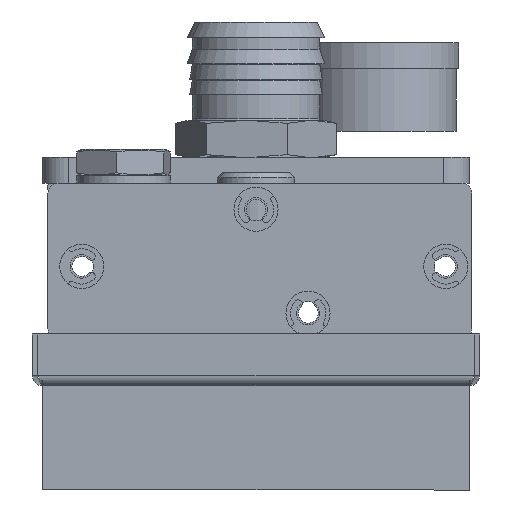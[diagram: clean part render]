
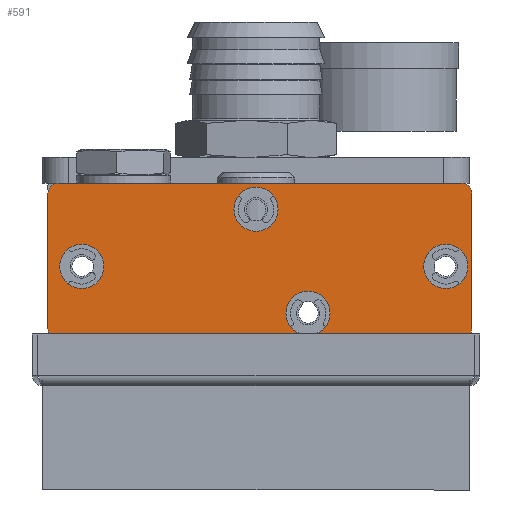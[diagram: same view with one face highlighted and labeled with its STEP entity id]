
A CAD part, front view. The second image highlights one B-rep face of the part: STEP entity #591.
In plain terms, the highlighted planar face has unit normal (0, -1, 0).
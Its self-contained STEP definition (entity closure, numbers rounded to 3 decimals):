
#378 = VERTEX_POINT ( 'NONE', #6392 ) ;
#380 = EDGE_CURVE ( 'NONE', #378, #381, #6391, .T. ) ;
#381 = VERTEX_POINT ( 'NONE', #6386 ) ;
#439 = EDGE_CURVE ( 'NONE', #440, #490, #6301, .T. ) ;
#440 = VERTEX_POINT ( 'NONE', #6296 ) ;
#452 = VERTEX_POINT ( 'NONE', #6625 ) ;
#454 = EDGE_CURVE ( 'NONE', #452, #455, #6622, .T. ) ;
#455 = VERTEX_POINT ( 'NONE', #6617 ) ;
#484 = EDGE_CURVE ( 'NONE', #485, #503, #6586, .T. ) ;
#485 = VERTEX_POINT ( 'NONE', #6582 ) ;
#489 = EDGE_CURVE ( 'NONE', #490, #703, #6532, .T. ) ;
#490 = VERTEX_POINT ( 'NONE', #6524 ) ;
#503 = VERTEX_POINT ( 'NONE', #6478 ) ;
#522 = EDGE_CURVE ( 'NONE', #526, #523, #6735, .T. ) ;
#523 = VERTEX_POINT ( 'NONE', #6730 ) ;
#526 = VERTEX_POINT ( 'NONE', #6725 ) ;
#528 = EDGE_CURVE ( 'NONE', #555, #529, #6724, .T. ) ;
#529 = VERTEX_POINT ( 'NONE', #6719 ) ;
#535 = EDGE_CURVE ( 'NONE', #536, #537, #6931, .T. ) ;
#536 = VERTEX_POINT ( 'NONE', #6926 ) ;
#537 = VERTEX_POINT ( 'NONE', #6925 ) ;
#555 = VERTEX_POINT ( 'NONE', #6867 ) ;
#577 = ORIENTED_EDGE ( 'NONE', *, *, #454, .F. ) ;
#578 = EDGE_LOOP ( 'NONE', ( #579, #580 ) ) ;
#579 = ORIENTED_EDGE ( 'NONE', *, *, #854, .F. ) ;
#580 = ORIENTED_EDGE ( 'NONE', *, *, #528, .F. ) ;
#581 = EDGE_LOOP ( 'NONE', ( #582, #583, #585, #586, #587, #821, #822, #649 ) ) ;
#582 = ORIENTED_EDGE ( 'NONE', *, *, #439, .F. ) ;
#583 = ORIENTED_EDGE ( 'NONE', *, *, #584, .F. ) ;
#584 = EDGE_CURVE ( 'NONE', #537, #440, #6762, .T. ) ;
#585 = ORIENTED_EDGE ( 'NONE', *, *, #535, .F. ) ;
#586 = ORIENTED_EDGE ( 'NONE', *, *, #694, .F. ) ;
#587 = ORIENTED_EDGE ( 'NONE', *, *, #484, .F. ) ;
#590 = EDGE_CURVE ( 'NONE', #523, #526, #6757, .T. ) ;
#591 = ADVANCED_FACE ( 'NONE', ( #6752, #6751, #6750, #6749, #6748 ), #6790, .T. ) ;
#592 = EDGE_LOOP ( 'NONE', ( #593, #594 ) ) ;
#593 = ORIENTED_EDGE ( 'NONE', *, *, #590, .F. ) ;
#594 = ORIENTED_EDGE ( 'NONE', *, *, #522, .F. ) ;
#595 = EDGE_LOOP ( 'NONE', ( #596, #597 ) ) ;
#596 = ORIENTED_EDGE ( 'NONE', *, *, #613, .F. ) ;
#597 = ORIENTED_EDGE ( 'NONE', *, *, #380, .F. ) ;
#598 = EDGE_LOOP ( 'NONE', ( #599, #577 ) ) ;
#599 = ORIENTED_EDGE ( 'NONE', *, *, #784, .F. ) ;
#613 = EDGE_CURVE ( 'NONE', #381, #378, #7064, .T. ) ;
#649 = ORIENTED_EDGE ( 'NONE', *, *, #489, .F. ) ;
#694 = EDGE_CURVE ( 'NONE', #503, #536, #7166, .T. ) ;
#702 = EDGE_CURVE ( 'NONE', #703, #833, #7328, .T. ) ;
#703 = VERTEX_POINT ( 'NONE', #7520 ) ;
#784 = EDGE_CURVE ( 'NONE', #455, #452, #7443, .T. ) ;
#821 = ORIENTED_EDGE ( 'NONE', *, *, #832, .F. ) ;
#822 = ORIENTED_EDGE ( 'NONE', *, *, #702, .F. ) ;
#832 = EDGE_CURVE ( 'NONE', #833, #485, #7608, .T. ) ;
#833 = VERTEX_POINT ( 'NONE', #7604 ) ;
#854 = EDGE_CURVE ( 'NONE', #529, #555, #7538, .T. ) ;
#6296 = CARTESIAN_POINT ( 'NONE',  ( -73.993, -290.496, -2.86 ) ) ;
#6297 = DIRECTION ( 'NONE',  ( -1., 0., 0. ) ) ;
#6298 = DIRECTION ( 'NONE',  ( 0., 1., 0. ) ) ;
#6299 = CARTESIAN_POINT ( 'NONE',  ( -73.993, -290.496, -0.86 ) ) ;
#6300 = AXIS2_PLACEMENT_3D ( 'NONE', #6299, #6298, #6297 ) ;
#6301 = CIRCLE ( 'NONE', #6300, 2. ) ;
#6386 = CARTESIAN_POINT ( 'NONE',  ( -30.243, -290.496, 2.14 ) ) ;
#6387 = DIRECTION ( 'NONE',  ( -1., 0., 0. ) ) ;
#6388 = DIRECTION ( 'NONE',  ( 0., -1., 0. ) ) ;
#6389 = CARTESIAN_POINT ( 'NONE',  ( -25.993, -290.496, 2.14 ) ) ;
#6390 = AXIS2_PLACEMENT_3D ( 'NONE', #6389, #6388, #6387 ) ;
#6391 = CIRCLE ( 'NONE', #6390, 4.25 ) ;
#6392 = CARTESIAN_POINT ( 'NONE',  ( -21.743, -290.496, 2.14 ) ) ;
#6478 = CARTESIAN_POINT ( 'NONE',  ( 5.507, -290.496, 25.14 ) ) ;
#6524 = CARTESIAN_POINT ( 'NONE',  ( -75.993, -290.496, -0.86 ) ) ;
#6525 = DIRECTION ( 'NONE',  ( 0., 0., 1. ) ) ;
#6526 = VECTOR ( 'NONE', #6525, 1000. ) ;
#6527 = CARTESIAN_POINT ( 'NONE',  ( -75.993, -290.496, -0.86 ) ) ;
#6532 = LINE ( 'NONE', #6527, #6526 ) ;
#6582 = CARTESIAN_POINT ( 'NONE',  ( 3.507, -290.496, 27.14 ) ) ;
#6583 = DIRECTION ( 'NONE',  ( 1., 0., 0. ) ) ;
#6584 = DIRECTION ( 'NONE',  ( 0., 1., 0. ) ) ;
#6585 = AXIS2_PLACEMENT_3D ( 'NONE', #6636, #6584, #6583 ) ;
#6586 = CIRCLE ( 'NONE', #6585, 2. ) ;
#6617 = CARTESIAN_POINT ( 'NONE',  ( -40.243, -290.496, 22.14 ) ) ;
#6618 = DIRECTION ( 'NONE',  ( -1., 0., 0. ) ) ;
#6619 = DIRECTION ( 'NONE',  ( 0., -1., 0. ) ) ;
#6620 = CARTESIAN_POINT ( 'NONE',  ( -35.993, -290.496, 22.14 ) ) ;
#6621 = AXIS2_PLACEMENT_3D ( 'NONE', #6620, #6619, #6618 ) ;
#6622 = CIRCLE ( 'NONE', #6621, 4.25 ) ;
#6625 = CARTESIAN_POINT ( 'NONE',  ( -31.743, -290.496, 22.14 ) ) ;
#6636 = CARTESIAN_POINT ( 'NONE',  ( 3.507, -290.496, 25.14 ) ) ;
#6719 = CARTESIAN_POINT ( 'NONE',  ( -3.743, -290.496, 11.14 ) ) ;
#6720 = DIRECTION ( 'NONE',  ( -1., 0., 0. ) ) ;
#6721 = DIRECTION ( 'NONE',  ( 0., -1., 0. ) ) ;
#6722 = CARTESIAN_POINT ( 'NONE',  ( 0.507, -290.496, 11.14 ) ) ;
#6723 = AXIS2_PLACEMENT_3D ( 'NONE', #6722, #6721, #6720 ) ;
#6724 = CIRCLE ( 'NONE', #6723, 4.25 ) ;
#6725 = CARTESIAN_POINT ( 'NONE',  ( -65.243, -290.496, 11.14 ) ) ;
#6730 = CARTESIAN_POINT ( 'NONE',  ( -73.743, -290.496, 11.14 ) ) ;
#6731 = DIRECTION ( 'NONE',  ( -1., 0., 0. ) ) ;
#6732 = DIRECTION ( 'NONE',  ( 0., -1., 0. ) ) ;
#6733 = CARTESIAN_POINT ( 'NONE',  ( -69.493, -290.496, 11.14 ) ) ;
#6734 = AXIS2_PLACEMENT_3D ( 'NONE', #6733, #6732, #6731 ) ;
#6735 = CIRCLE ( 'NONE', #6734, 4.25 ) ;
#6748 = FACE_OUTER_BOUND ( 'NONE', #581, .T. ) ;
#6749 = FACE_BOUND ( 'NONE', #578, .T. ) ;
#6750 = FACE_BOUND ( 'NONE', #598, .T. ) ;
#6751 = FACE_BOUND ( 'NONE', #595, .T. ) ;
#6752 = FACE_BOUND ( 'NONE', #592, .T. ) ;
#6753 = DIRECTION ( 'NONE',  ( -1., 0., 0. ) ) ;
#6754 = DIRECTION ( 'NONE',  ( 0., -1., 0. ) ) ;
#6755 = CARTESIAN_POINT ( 'NONE',  ( -69.493, -290.496, 11.14 ) ) ;
#6756 = AXIS2_PLACEMENT_3D ( 'NONE', #6755, #6754, #6753 ) ;
#6757 = CIRCLE ( 'NONE', #6756, 4.25 ) ;
#6759 = DIRECTION ( 'NONE',  ( -1., 0., 0. ) ) ;
#6760 = VECTOR ( 'NONE', #6759, 1000. ) ;
#6761 = CARTESIAN_POINT ( 'NONE',  ( -73.993, -290.496, -2.86 ) ) ;
#6762 = LINE ( 'NONE', #6761, #6760 ) ;
#6784 = DIRECTION ( 'NONE',  ( -1., 0., 0. ) ) ;
#6785 = DIRECTION ( 'NONE',  ( 0., -1., 0. ) ) ;
#6786 = CARTESIAN_POINT ( 'NONE',  ( -73.993, -290.496, -0.86 ) ) ;
#6787 = AXIS2_PLACEMENT_3D ( 'NONE', #6786, #6785, #6784 ) ;
#6790 = PLANE ( 'NONE',  #6787 ) ;
#6867 = CARTESIAN_POINT ( 'NONE',  ( 4.757, -290.496, 11.14 ) ) ;
#6925 = CARTESIAN_POINT ( 'NONE',  ( 3.507, -290.496, -2.86 ) ) ;
#6926 = CARTESIAN_POINT ( 'NONE',  ( 5.507, -290.496, -0.86 ) ) ;
#6927 = DIRECTION ( 'NONE',  ( 1., 0., 0. ) ) ;
#6928 = DIRECTION ( 'NONE',  ( 0., 1., 0. ) ) ;
#6929 = CARTESIAN_POINT ( 'NONE',  ( 3.507, -290.496, -0.86 ) ) ;
#6930 = AXIS2_PLACEMENT_3D ( 'NONE', #6929, #6928, #6927 ) ;
#6931 = CIRCLE ( 'NONE', #6930, 2. ) ;
#7060 = DIRECTION ( 'NONE',  ( -1., 0., 0. ) ) ;
#7061 = DIRECTION ( 'NONE',  ( 0., -1., 0. ) ) ;
#7062 = CARTESIAN_POINT ( 'NONE',  ( -25.993, -290.496, 2.14 ) ) ;
#7063 = AXIS2_PLACEMENT_3D ( 'NONE', #7062, #7061, #7060 ) ;
#7064 = CIRCLE ( 'NONE', #7063, 4.25 ) ;
#7163 = DIRECTION ( 'NONE',  ( 0., 0., -1. ) ) ;
#7164 = VECTOR ( 'NONE', #7163, 1000. ) ;
#7165 = CARTESIAN_POINT ( 'NONE',  ( 5.507, -290.496, -0.86 ) ) ;
#7166 = LINE ( 'NONE', #7165, #7164 ) ;
#7322 = CARTESIAN_POINT ( 'NONE',  ( -73.993, -290.496, 25.14 ) ) ;
#7323 = AXIS2_PLACEMENT_3D ( 'NONE', #7322, #7522, #7521 ) ;
#7328 = CIRCLE ( 'NONE', #7323, 2. ) ;
#7440 = DIRECTION ( 'NONE',  ( -1., 0., 0. ) ) ;
#7441 = DIRECTION ( 'NONE',  ( 0., -1., 0. ) ) ;
#7442 = AXIS2_PLACEMENT_3D ( 'NONE', #7450, #7441, #7440 ) ;
#7443 = CIRCLE ( 'NONE', #7442, 4.25 ) ;
#7450 = CARTESIAN_POINT ( 'NONE',  ( -35.993, -290.496, 22.14 ) ) ;
#7520 = CARTESIAN_POINT ( 'NONE',  ( -75.993, -290.496, 25.14 ) ) ;
#7521 = DIRECTION ( 'NONE',  ( -1., 0., 0. ) ) ;
#7522 = DIRECTION ( 'NONE',  ( 0., 1., 0. ) ) ;
#7534 = DIRECTION ( 'NONE',  ( -1., 0., 0. ) ) ;
#7535 = DIRECTION ( 'NONE',  ( 0., -1., 0. ) ) ;
#7536 = CARTESIAN_POINT ( 'NONE',  ( 0.507, -290.496, 11.14 ) ) ;
#7537 = AXIS2_PLACEMENT_3D ( 'NONE', #7536, #7535, #7534 ) ;
#7538 = CIRCLE ( 'NONE', #7537, 4.25 ) ;
#7604 = CARTESIAN_POINT ( 'NONE',  ( -73.993, -290.496, 27.14 ) ) ;
#7605 = DIRECTION ( 'NONE',  ( 1., 0., 0. ) ) ;
#7606 = VECTOR ( 'NONE', #7605, 1000. ) ;
#7607 = CARTESIAN_POINT ( 'NONE',  ( -73.993, -290.496, 27.14 ) ) ;
#7608 = LINE ( 'NONE', #7607, #7606 ) ;
